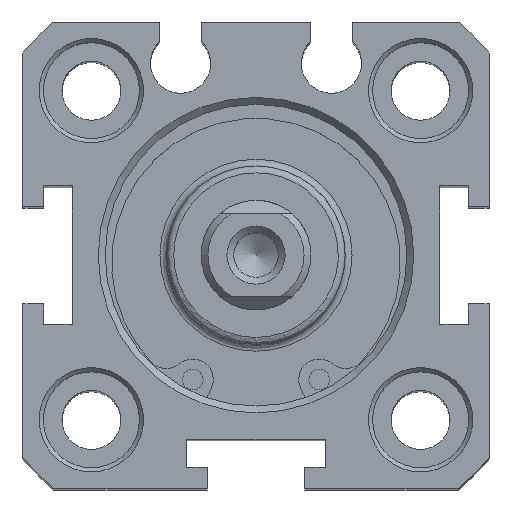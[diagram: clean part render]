
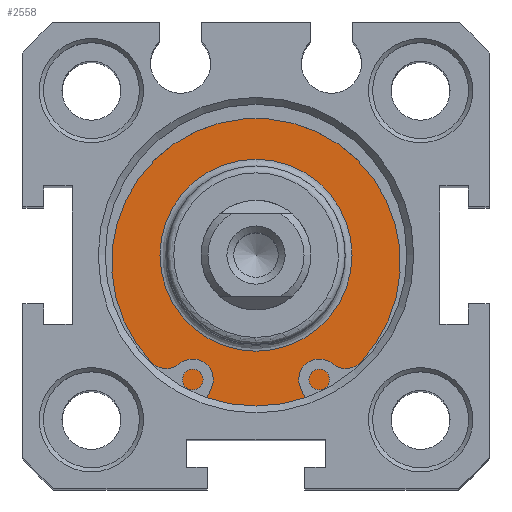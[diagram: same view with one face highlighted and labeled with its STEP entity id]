
A CAD part, top view. The second image highlights one B-rep face of the part: STEP entity #2558.
In plain terms, the highlighted planar face has unit normal (0, 0, 1).
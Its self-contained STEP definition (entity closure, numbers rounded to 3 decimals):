
#2507=CARTESIAN_POINT('',(0.24,8.683,66.8));
#2508=VERTEX_POINT('',#2507);
#2509=CARTESIAN_POINT('',(0.24,1.683,66.8));
#2510=DIRECTION('',(0.0,0.0,1.0));
#2511=DIRECTION('',(0.0,-1.0,0.0));
#2512=AXIS2_PLACEMENT_3D('',#2509,#2510,#2511);
#2513=CIRCLE('',#2512,7.);
#2514=EDGE_CURVE('',#2508,#2508,#2513,.T.);
#2539=CARTESIAN_POINT('',(0.24,10.433,66.8));
#2540=DIRECTION('',(0.0,0.0,1.0));
#2541=DIRECTION('',(1.0,0.0,0.0));
#2542=AXIS2_PLACEMENT_3D('',#2539,#2540,#2541);
#2543=PLANE('',#2542);
#2544=CARTESIAN_POINT('',(0.24,12.683,66.8));
#2545=VERTEX_POINT('',#2544);
#2546=CARTESIAN_POINT('',(0.24,1.683,66.8));
#2547=DIRECTION('',(0.0,0.0,-1.0));
#2548=DIRECTION('',(0.0,1.0,0.0));
#2549=AXIS2_PLACEMENT_3D('',#2546,#2547,#2548);
#2550=CIRCLE('',#2549,11.);
#2551=EDGE_CURVE('',#2545,#2545,#2550,.T.);
#2552=ORIENTED_EDGE('',*,*,#2551,.F.);
#2553=EDGE_LOOP('',(#2552));
#2554=FACE_OUTER_BOUND('',#2553,.T.);
#2555=ORIENTED_EDGE('',*,*,#2514,.F.);
#2556=EDGE_LOOP('',(#2555));
#2557=FACE_BOUND('',#2556,.T.);
#2558=ADVANCED_FACE('',(#2554,#2557),#2543,.T.);
